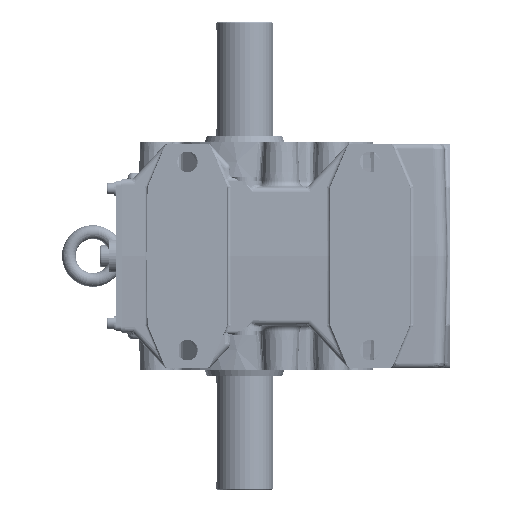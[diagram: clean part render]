
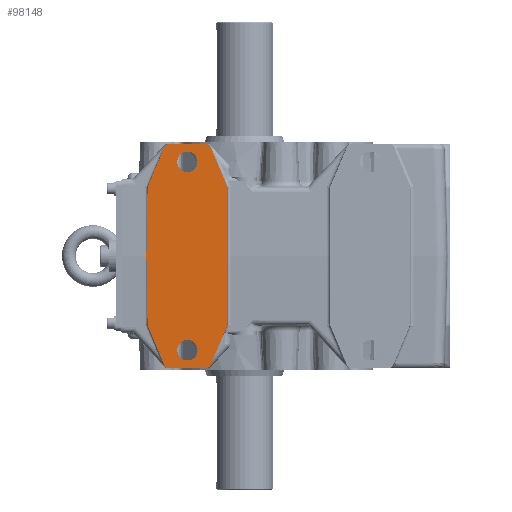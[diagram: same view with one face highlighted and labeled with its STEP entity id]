
A CAD part, left-side view. The second image highlights one B-rep face of the part: STEP entity #98148.
In plain terms, the highlighted planar face has unit normal (-1, 0, 0).
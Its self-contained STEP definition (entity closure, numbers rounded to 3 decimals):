
#77243=CARTESIAN_POINT('',(-112.,84.614,61.429));
#77244=VERTEX_POINT('',#77243);
#77245=CARTESIAN_POINT('',(-112.,82.368,66.75));
#77246=VERTEX_POINT('',#77245);
#77247=CARTESIAN_POINT('',(-112.,84.212,67.526));
#77248=DIRECTION('',(-1.0,0.0,0.0));
#77249=DIRECTION('',(0.0,0.388,-0.922));
#77250=AXIS2_PLACEMENT_3D('',#77247,#77248,#77249);
#77251=ELLIPSE('',#77250,82.895,2.0);
#77252=EDGE_CURVE('',#77244,#77246,#77251,.T.);
#77300=CARTESIAN_POINT('',(-112.,85.011,59.485));
#77301=VERTEX_POINT('',#77300);
#77302=CARTESIAN_POINT('',(-112.,85.011,59.485));
#77303=CARTESIAN_POINT('',(-112.,85.01,59.818));
#77304=CARTESIAN_POINT('',(-112.,84.976,60.151));
#77305=CARTESIAN_POINT('',(-112.,84.909,60.478));
#77306=CARTESIAN_POINT('',(-112.,84.842,60.804));
#77307=CARTESIAN_POINT('',(-112.,84.744,61.123));
#77308=CARTESIAN_POINT('',(-112.,84.614,61.429));
#77309=B_SPLINE_CURVE_WITH_KNOTS('',3,(#77302,#77303,#77304,#77305,#77306,#77307,#77308),.UNSPECIFIED.,.F.,.U.,(4,3,4),(-0.2,-0.1,0.0),.UNSPECIFIED.);
#77310=EDGE_CURVE('',#77301,#77244,#77309,.T.);
#77337=CARTESIAN_POINT('',(-112.,86.064,0.));
#77338=VERTEX_POINT('',#77337);
#77339=CARTESIAN_POINT('',(-112.,87.0,67.526));
#77340=DIRECTION('',(-1.0,0.0,0.0));
#77341=DIRECTION('',(0.0,0.0,-1.0));
#77342=AXIS2_PLACEMENT_3D('',#77339,#77340,#77341);
#77343=ELLIPSE('',#77342,76.403,2.0);
#77344=EDGE_CURVE('',#77338,#77301,#77343,.T.);
#77370=CARTESIAN_POINT('',(-112.,85.011,-59.485));
#77371=VERTEX_POINT('',#77370);
#77372=CARTESIAN_POINT('',(-112.,87.0,-67.526));
#77373=DIRECTION('',(-1.0,0.0,0.0));
#77374=DIRECTION('',(0.0,0.0,1.0));
#77375=AXIS2_PLACEMENT_3D('',#77372,#77373,#77374);
#77376=ELLIPSE('',#77375,76.403,2.0);
#77377=EDGE_CURVE('',#77371,#77338,#77376,.T.);
#84408=CARTESIAN_POINT('',(-112.,15.392,61.431));
#84409=VERTEX_POINT('',#84408);
#84410=CARTESIAN_POINT('',(-112.,15.0,59.49));
#84411=VERTEX_POINT('',#84410);
#84412=CARTESIAN_POINT('',(-112.,20.0,59.49));
#84413=DIRECTION('',(1.0,0.0,0.0));
#84414=DIRECTION('',(0.0,-0.98,0.198));
#84415=AXIS2_PLACEMENT_3D('',#84412,#84413,#84414);
#84416=CIRCLE('',#84415,5.);
#84417=EDGE_CURVE('',#84409,#84411,#84416,.T.);
#84440=CARTESIAN_POINT('',(-112.,29.712,95.44));
#84441=VERTEX_POINT('',#84440);
#84442=CARTESIAN_POINT('',(-112.,29.712,95.44));
#84443=DIRECTION('',(0.0,-0.388,-0.922));
#84444=VECTOR('',#84443,36.901);
#84445=LINE('',#84442,#84444);
#84446=EDGE_CURVE('',#84441,#84409,#84445,.T.);
#84468=CARTESIAN_POINT('',(-112.,34.32,98.5));
#84469=VERTEX_POINT('',#84468);
#84470=CARTESIAN_POINT('',(-112.,34.32,93.5));
#84471=DIRECTION('',(1.0,0.0,0.0));
#84472=DIRECTION('',(0.0,0.0,1.0));
#84473=AXIS2_PLACEMENT_3D('',#84470,#84471,#84472);
#84474=CIRCLE('',#84473,5.0);
#84475=EDGE_CURVE('',#84469,#84441,#84474,.T.);
#84493=CARTESIAN_POINT('',(-112.,65.68,98.5));
#84494=VERTEX_POINT('',#84493);
#84495=CARTESIAN_POINT('',(-112.,65.68,98.5));
#84496=DIRECTION('',(0.0,-1.0,0.0));
#84497=VECTOR('',#84496,31.36);
#84498=LINE('',#84495,#84497);
#84499=EDGE_CURVE('',#84494,#84469,#84498,.T.);
#84521=CARTESIAN_POINT('',(-112.,70.288,95.44));
#84522=VERTEX_POINT('',#84521);
#84523=CARTESIAN_POINT('',(-112.,65.68,93.5));
#84524=DIRECTION('',(1.0,0.0,0.0));
#84525=DIRECTION('',(0.0,0.0,1.0));
#84526=AXIS2_PLACEMENT_3D('',#84523,#84524,#84525);
#84527=CIRCLE('',#84526,5.0);
#84528=EDGE_CURVE('',#84522,#84494,#84527,.T.);
#84546=CARTESIAN_POINT('',(-112.0,82.368,66.75));
#84547=DIRECTION('',(0.0,-0.388,0.922));
#84548=VECTOR('',#84547,31.13);
#84549=LINE('',#84546,#84548);
#84550=EDGE_CURVE('',#77246,#84522,#84549,.T.);
#97564=CARTESIAN_POINT('',(-112.,84.614,-61.429));
#97565=VERTEX_POINT('',#97564);
#97566=CARTESIAN_POINT('',(-112.,84.614,-61.429));
#97567=CARTESIAN_POINT('',(-112.,84.744,-61.122));
#97568=CARTESIAN_POINT('',(-112.,84.843,-60.803));
#97569=CARTESIAN_POINT('',(-112.,84.909,-60.477));
#97570=CARTESIAN_POINT('',(-112.,84.976,-60.15));
#97571=CARTESIAN_POINT('',(-112.,85.01,-59.818));
#97572=CARTESIAN_POINT('',(-112.,85.011,-59.485));
#97573=B_SPLINE_CURVE_WITH_KNOTS('',3,(#97566,#97567,#97568,#97569,#97570,#97571,#97572),.UNSPECIFIED.,.F.,.U.,(4,3,4),(-0.2,-0.1,0.0),.UNSPECIFIED.);
#97574=EDGE_CURVE('',#97565,#77371,#97573,.T.);
#97601=CARTESIAN_POINT('',(-112.,82.368,-66.75));
#97602=VERTEX_POINT('',#97601);
#97603=CARTESIAN_POINT('',(-112.,84.212,-67.526));
#97604=DIRECTION('',(-1.0,0.0,0.0));
#97605=DIRECTION('',(0.0,0.388,0.922));
#97606=AXIS2_PLACEMENT_3D('',#97603,#97604,#97605);
#97607=ELLIPSE('',#97606,82.895,2.0);
#97608=EDGE_CURVE('',#97602,#97565,#97607,.T.);
#97632=CARTESIAN_POINT('',(-112.,70.288,-95.44));
#97633=VERTEX_POINT('',#97632);
#97634=CARTESIAN_POINT('',(-112.0,70.288,-95.44));
#97635=DIRECTION('',(0.0,0.388,0.922));
#97636=VECTOR('',#97635,31.13);
#97637=LINE('',#97634,#97636);
#97638=EDGE_CURVE('',#97633,#97602,#97637,.T.);
#97656=CARTESIAN_POINT('',(-112.,65.68,-98.5));
#97657=VERTEX_POINT('',#97656);
#97658=CARTESIAN_POINT('',(-112.,65.68,-93.5));
#97659=DIRECTION('',(1.0,0.0,0.0));
#97660=DIRECTION('',(0.0,0.0,-1.0));
#97661=AXIS2_PLACEMENT_3D('',#97658,#97659,#97660);
#97662=CIRCLE('',#97661,5.0);
#97663=EDGE_CURVE('',#97657,#97633,#97662,.T.);
#97681=CARTESIAN_POINT('',(-112.,34.32,-98.5));
#97682=VERTEX_POINT('',#97681);
#97683=CARTESIAN_POINT('',(-112.,34.32,-98.5));
#97684=DIRECTION('',(0.0,1.0,0.0));
#97685=VECTOR('',#97684,31.36);
#97686=LINE('',#97683,#97685);
#97687=EDGE_CURVE('',#97682,#97657,#97686,.T.);
#97709=CARTESIAN_POINT('',(-112.,29.712,-95.44));
#97710=VERTEX_POINT('',#97709);
#97711=CARTESIAN_POINT('',(-112.,34.32,-93.5));
#97712=DIRECTION('',(1.0,0.0,0.0));
#97713=DIRECTION('',(0.0,0.0,-1.0));
#97714=AXIS2_PLACEMENT_3D('',#97711,#97712,#97713);
#97715=CIRCLE('',#97714,5.0);
#97716=EDGE_CURVE('',#97710,#97682,#97715,.T.);
#97734=CARTESIAN_POINT('',(-112.,15.392,-61.431));
#97735=VERTEX_POINT('',#97734);
#97736=CARTESIAN_POINT('',(-112.,15.392,-61.431));
#97737=DIRECTION('',(0.0,0.388,-0.922));
#97738=VECTOR('',#97737,36.901);
#97739=LINE('',#97736,#97738);
#97740=EDGE_CURVE('',#97735,#97710,#97739,.T.);
#97761=CARTESIAN_POINT('',(-112.,15.0,-59.49));
#97762=VERTEX_POINT('',#97761);
#97763=CARTESIAN_POINT('',(-112.,20.0,-59.49));
#97764=DIRECTION('',(1.0,0.0,0.0));
#97765=DIRECTION('',(0.0,-0.98,-0.198));
#97766=AXIS2_PLACEMENT_3D('',#97763,#97764,#97765);
#97767=CIRCLE('',#97766,5.0);
#97768=EDGE_CURVE('',#97762,#97735,#97767,.T.);
#97786=CARTESIAN_POINT('',(-112.,15.0,59.49));
#97787=DIRECTION('',(0.0,0.0,-1.0));
#97788=VECTOR('',#97787,118.981);
#97789=LINE('',#97786,#97788);
#97790=EDGE_CURVE('',#84411,#97762,#97789,.T.);
#98100=CARTESIAN_POINT('',(-112.,-29.479,11.268));
#98101=DIRECTION('',(1.0,0.0,0.0));
#98102=DIRECTION('',(0.0,0.0,-1.0));
#98103=AXIS2_PLACEMENT_3D('',#98100,#98101,#98102);
#98104=PLANE('',#98103);
#98105=ORIENTED_EDGE('',*,*,#77377,.F.);
#98106=ORIENTED_EDGE('',*,*,#97574,.F.);
#98107=ORIENTED_EDGE('',*,*,#97608,.F.);
#98108=ORIENTED_EDGE('',*,*,#97638,.F.);
#98109=ORIENTED_EDGE('',*,*,#97663,.F.);
#98110=ORIENTED_EDGE('',*,*,#97687,.F.);
#98111=ORIENTED_EDGE('',*,*,#97716,.F.);
#98112=ORIENTED_EDGE('',*,*,#97740,.F.);
#98113=ORIENTED_EDGE('',*,*,#97768,.F.);
#98114=ORIENTED_EDGE('',*,*,#97790,.F.);
#98115=ORIENTED_EDGE('',*,*,#84417,.F.);
#98116=ORIENTED_EDGE('',*,*,#84446,.F.);
#98117=ORIENTED_EDGE('',*,*,#84475,.F.);
#98118=ORIENTED_EDGE('',*,*,#84499,.F.);
#98119=ORIENTED_EDGE('',*,*,#84528,.F.);
#98120=ORIENTED_EDGE('',*,*,#84550,.F.);
#98121=ORIENTED_EDGE('',*,*,#77252,.F.);
#98122=ORIENTED_EDGE('',*,*,#77310,.F.);
#98123=ORIENTED_EDGE('',*,*,#77344,.F.);
#98124=EDGE_LOOP('',(#98105,#98106,#98107,#98108,#98109,#98110,#98111,#98112,#98113,#98114,#98115,#98116,#98117,#98118,#98119,#98120,#98121,#98122,#98123));
#98125=FACE_OUTER_BOUND('',#98124,.T.);
#98126=CARTESIAN_POINT('',(-112.,50.0,-73.5));
#98127=VERTEX_POINT('',#98126);
#98128=CARTESIAN_POINT('',(-112.,50.0,-82.5));
#98129=DIRECTION('',(1.0,0.0,0.0));
#98130=DIRECTION('',(0.0,0.0,1.0));
#98131=AXIS2_PLACEMENT_3D('',#98128,#98129,#98130);
#98132=CIRCLE('',#98131,9.0);
#98133=EDGE_CURVE('',#98127,#98127,#98132,.T.);
#98134=ORIENTED_EDGE('',*,*,#98133,.T.);
#98135=EDGE_LOOP('',(#98134));
#98136=FACE_BOUND('',#98135,.T.);
#98137=CARTESIAN_POINT('',(-112.,50.,91.5));
#98138=VERTEX_POINT('',#98137);
#98139=CARTESIAN_POINT('',(-112.,50.,82.5));
#98140=DIRECTION('',(1.0,0.0,0.0));
#98141=DIRECTION('',(0.0,0.0,1.0));
#98142=AXIS2_PLACEMENT_3D('',#98139,#98140,#98141);
#98143=CIRCLE('',#98142,9.0);
#98144=EDGE_CURVE('',#98138,#98138,#98143,.T.);
#98145=ORIENTED_EDGE('',*,*,#98144,.T.);
#98146=EDGE_LOOP('',(#98145));
#98147=FACE_BOUND('',#98146,.T.);
#98148=ADVANCED_FACE('',(#98125,#98136,#98147),#98104,.F.);
